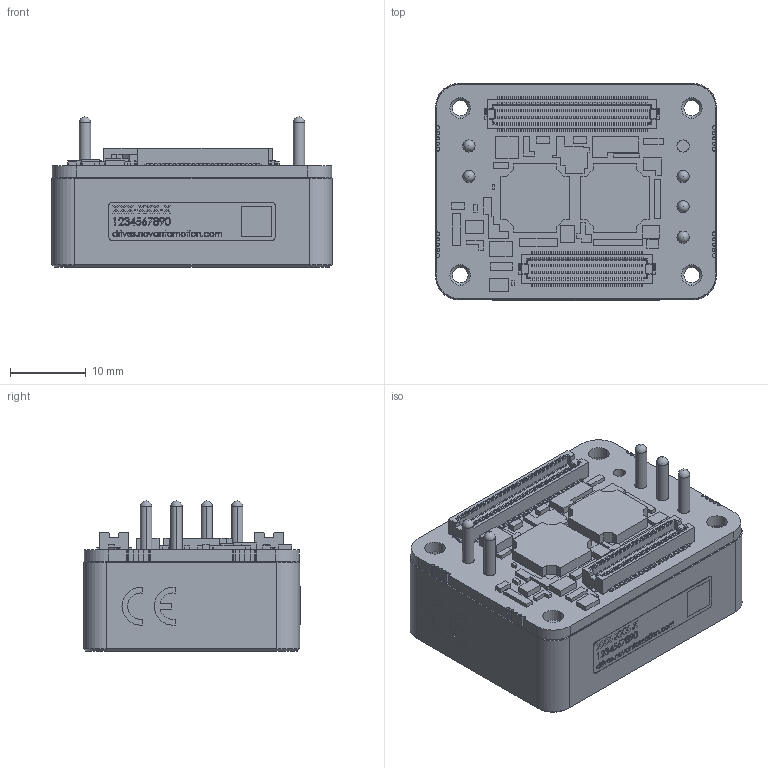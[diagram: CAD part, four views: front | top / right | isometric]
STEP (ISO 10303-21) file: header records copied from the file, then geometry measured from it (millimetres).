
FILE_DESCRIPTION (( 'STEP AP214' ), '1' );
FILE_NAME ('EVS-S-NET-E.STEP', '2025-04-03T09:55:21', ( '' ), ( '' ), 'SwSTEP 2.0', 'SolidWorks 2024', '' );
FILE_SCHEMA (( 'AUTOMOTIVE_DESIGN' ));
Length unit declared in the file: millimetre
Products named in the file (6): EVS-S-NET-E; DR0059B-A1_PUBLIC; DR0059B-M2; CPP-00051; DR0050A-H4_PUBLIC; DR0044-01H1_FUSA_PCA_PUBLIC
Assembly tree (5 placements, depth 3):
  EVS-S-NET-E
    DR0059B-A1_PUBLIC
      DR0059B-M2
      DR0044-01H1_FUSA_PCA_PUBLIC
    DR0050A-H4_PUBLIC
    CPP-00051
Bounding box: 36.95 x 28.55 x 19.76 mm (x, y, z)
Volume: 6680.4 mm3; surface area: 11145.2 mm2
Topology: 41 solids, 41 shells, 8768 faces, 24633 edges, 16167 vertices
Faces by surface type: plane 7116, cylinder 1261, bspline 264, cone 122, sphere 5
Entity records: 380225 total; most frequent: CARTESIAN_POINT 64738, ORIENTED_EDGE 49246, DIRECTION 43755, EDGE_CURVE 24623, LINE 21389, VECTOR 21389, VERTEX_POINT 16162, AXIS2_PLACEMENT_3D 11183
